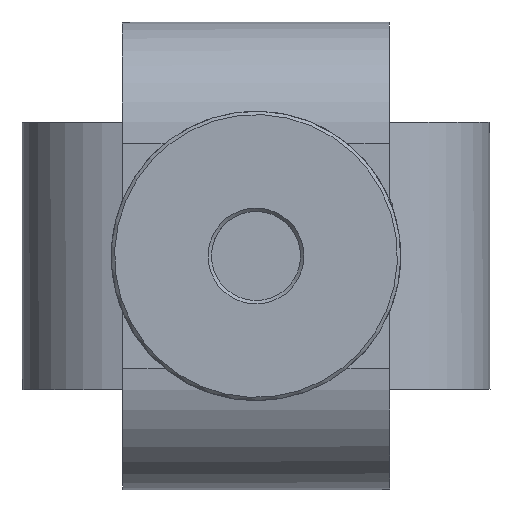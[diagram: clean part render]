
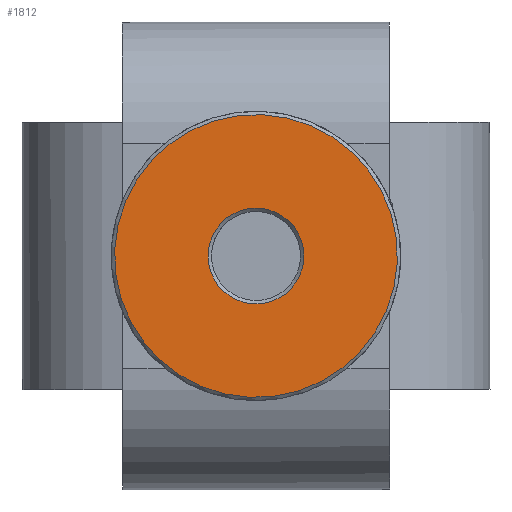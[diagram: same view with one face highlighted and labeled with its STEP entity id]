
A CAD part, left-side view. The second image highlights one B-rep face of the part: STEP entity #1812.
In plain terms, the highlighted planar face has unit normal (-1, 0, 0).
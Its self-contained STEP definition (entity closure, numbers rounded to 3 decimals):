
#288=PLANE('',#1972);
#380=FACE_BOUND('',#615,.T.);
#462=FACE_OUTER_BOUND('',#614,.T.);
#614=EDGE_LOOP('',(#1328));
#615=EDGE_LOOP('',(#1329));
#805=CIRCLE('',#1971,4.3);
#806=CIRCLE('',#1973,12.7);
#920=VERTEX_POINT('',#3020);
#921=VERTEX_POINT('',#3023);
#1077=EDGE_CURVE('',#920,#920,#805,.T.);
#1078=EDGE_CURVE('',#921,#921,#806,.T.);
#1328=ORIENTED_EDGE('',*,*,#1078,.F.);
#1329=ORIENTED_EDGE('',*,*,#1077,.F.);
#1812=ADVANCED_FACE('',(#462,#380),#288,.T.);
#1971=AXIS2_PLACEMENT_3D('',#3021,#2249,#2250);
#1972=AXIS2_PLACEMENT_3D('',#3022,#2251,#2252);
#1973=AXIS2_PLACEMENT_3D('',#3024,#2253,#2254);
#2249=DIRECTION('center_axis',(-1.,0.,0.));
#2250=DIRECTION('ref_axis',(0.,0.461,0.887));
#2251=DIRECTION('center_axis',(-1.,0.,0.));
#2252=DIRECTION('ref_axis',(0.,-0.461,-0.887));
#2253=DIRECTION('center_axis',(1.,0.,0.));
#2254=DIRECTION('ref_axis',(0.,-0.461,-0.887));
#3020=CARTESIAN_POINT('',(-75.686,-12.555,27.788));
#3021=CARTESIAN_POINT('Origin',(-75.686,-10.573,31.604));
#3022=CARTESIAN_POINT('Origin',(-75.686,-10.573,31.604));
#3023=CARTESIAN_POINT('',(-75.686,-4.718,42.874));
#3024=CARTESIAN_POINT('Origin',(-75.686,-10.573,31.604));
